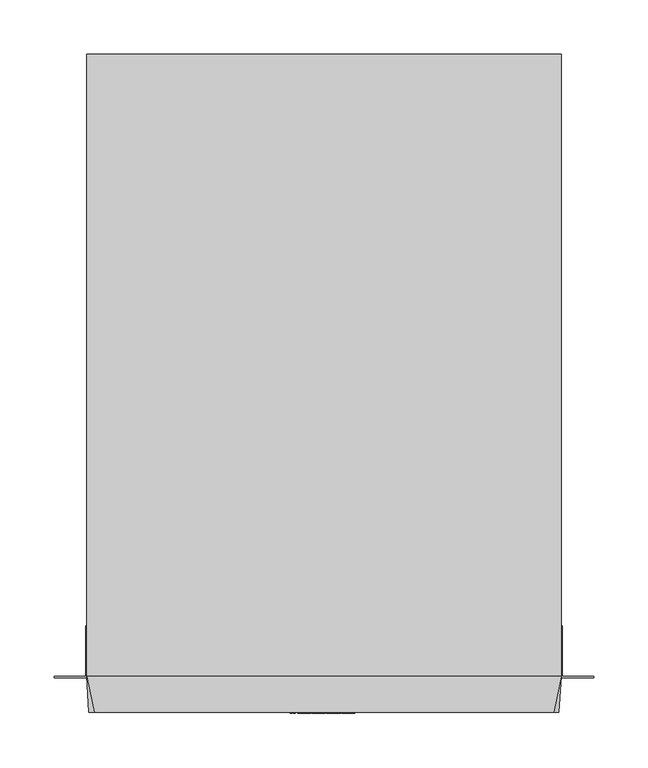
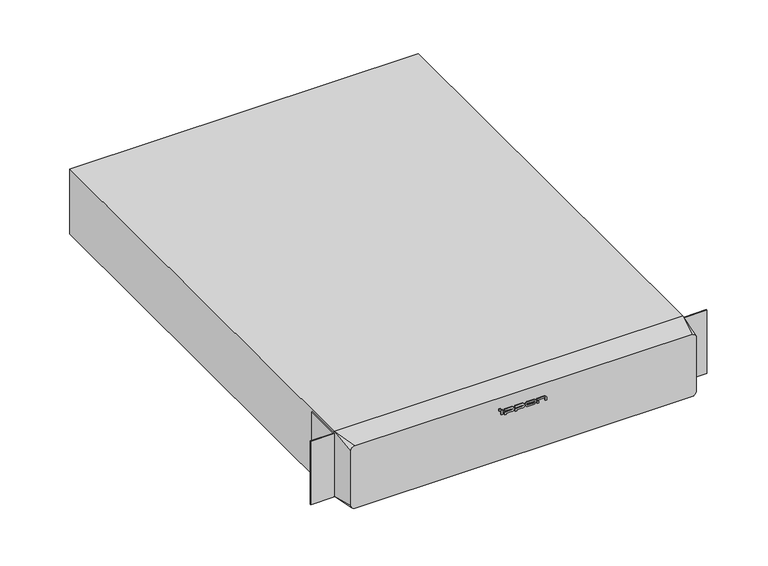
"""IFC4 building model written with IfcOpenShell, lengths in millimetres: proxy geometry, IPPON_EBM_Smart Winner II_1500_2000_2000E_3000ВА : EBM Smart Winner II 2000/3000 ВА."""

from ifc_helpers import new_model, si_unit, point, frame, frame_2d, origin, place, context, project, spatial, polyline, circle_curve, trimmed, segment, composite_curve, outline, extrude, source, transform, mapped, element, save
from ifc_brep_helpers import plane_surface, spline_surface, advanced_brep


def electrical_equipment_90de4895(model_context):
    return source(origin(), model_context, "Body", "SolidModel", [
        extrude(outline(polyline([(-29.1718133, -1.0), (-31.1718133, -1.0), (-31.1718133, 0.0), (-29.1718133, 0.0), (-29.1718133, -1.0)])), frame((0.0, 0.0, 70.0945835), z_axis=(0.0, 0.0, 1.0), x_axis=(1.0, 0.0, 0.0)), (0.0, 0.0, 1.0), 2.3),
        extrude(outline(polyline([(18.6035474, -1.0), (16.6035474, -1.0), (16.6035474, 0.0), (18.6035474, 0.0), (18.6035474, -1.0)])), frame((0.0, 0.0, 64.0945835), z_axis=(0.0, 0.0, 1.0), x_axis=(1.0, 0.0, 0.0)), (0.0, 0.0, 1.0), 2.2268231),
        extrude(outline(polyline([(-26.438565, -1.0), (-28.4833324, -1.0), (-28.4833324, 0.0), (-26.438565, 0.0), (-26.438565, -1.0)])), frame((0.0, 0.0, 64.0945835), z_axis=(0.0, 0.0, 1.0), x_axis=(1.0, 0.0, 0.0)), (0.0, 0.0, 1.0), 6.0),
        extrude(outline(composite_curve([segment(polyline([(67.8321435, -24.2241109), (67.8321435, -14.9923536)]), True, "CONTINUOUS"), segment(trimmed(circle_curve(frame_2d((66.9756642, -14.9923536)), 0.8564793), [point((67.8321435, -14.9923536))], [point((66.1191849, -14.9923536))], True, "CARTESIAN"), True, "CONTINUOUS"), segment(polyline([(66.1191849, -14.9923536), (66.1191849, -24.2241109), (62.6286803, -24.2241109), (62.6286803, -22.2241109), (64.0945835, -22.2241109), (64.0945835, -15.1486036)]), True, "CONTINUOUS"), segment(trimmed(circle_curve(frame_2d((67.0945835, -15.1486036)), 3.0), [point((64.0945835, -15.1486036))], [point((70.0945835, -15.1486036))], False, "CARTESIAN"), True, "CONTINUOUS"), segment(polyline([(70.0945835, -15.1486036), (70.0945835, -24.2241109), (67.8321435, -24.2241109)]), True, "CONTINUOUS")], self_intersect=False)), frame((0.0, -1.0, 0.0), z_axis=(0.0, 1.0, 0.0), x_axis=(0.0, 0.0, 1.0)), (0.0, 0.0, 1.0), 1.0),
        extrude(outline(composite_curve([segment(polyline([(67.8321435, -11.0171091), (67.8321435, -1.7853518)]), True, "CONTINUOUS"), segment(trimmed(circle_curve(frame_2d((66.9756642, -1.7853518)), 0.8564793), [point((67.8321435, -1.7853518))], [point((66.1191849, -1.7853518))], True, "CARTESIAN"), True, "CONTINUOUS"), segment(polyline([(66.1191849, -1.7853518), (66.1191849, -11.0171091), (62.6286803, -11.0171091), (62.6286803, -9.0171091), (64.0945835, -9.0171091), (64.0945835, -1.9416018)]), True, "CONTINUOUS"), segment(trimmed(circle_curve(frame_2d((67.0945835, -1.9416018)), 3.0), [point((64.0945835, -1.9416018))], [point((70.0945835, -1.9416018))], False, "CARTESIAN"), True, "CONTINUOUS"), segment(polyline([(70.0945835, -1.9416018), (70.0945835, -11.0171091), (67.8321435, -11.0171091)]), True, "CONTINUOUS")], self_intersect=False)), frame((0.0, -1.0, 0.0), z_axis=(0.0, 1.0, 0.0), x_axis=(0.0, 0.0, 1.0)), (0.0, 0.0, 1.0), 1.0),
        extrude(outline(composite_curve([segment(trimmed(circle_curve(frame_2d((67.0945835, 12.558657)), 3.0), [point((64.0945835, 12.558657))], [point((70.0945835, 12.558657))], False, "CARTESIAN"), True, "CONTINUOUS"), segment(polyline([(70.0945835, 12.558657), (70.0945835, 4.958657)]), True, "CONTINUOUS"), segment(trimmed(circle_curve(frame_2d((67.0945835, 4.958657)), 3.0), [point((70.0945835, 4.958657))], [point((64.0945835, 4.958657))], False, "CARTESIAN"), True, "CONTINUOUS"), segment(polyline([(64.0945835, 4.958657), (64.0945835, 12.558657)]), True, "CONTINUOUS")], self_intersect=False), holes=[composite_curve([segment(polyline([(66.1191849, 12.714907), (66.1191849, 4.802407)]), True, "CONTINUOUS"), segment(trimmed(circle_curve(frame_2d((66.9756642, 4.802407)), 0.8564793), [point((66.1191849, 4.802407))], [point((67.8321435, 4.802407))], True, "CARTESIAN"), True, "CONTINUOUS"), segment(polyline([(67.8321435, 4.802407), (67.8321435, 12.714907)]), True, "CONTINUOUS"), segment(trimmed(circle_curve(frame_2d((66.9756642, 12.714907)), 0.8564793), [point((67.8321435, 12.714907))], [point((66.1191849, 12.714907))], True, "CARTESIAN"), True, "CONTINUOUS")], self_intersect=False)]), frame((0.0, -1.0, 0.0), z_axis=(0.0, 1.0, 0.0), x_axis=(0.0, 0.0, 1.0)), (0.0, 0.0, 1.0), 1.0),
        extrude(outline(composite_curve([segment(polyline([(67.8321435, 16.6035474), (67.8321435, 25.8353046)]), True, "CONTINUOUS"), segment(trimmed(circle_curve(frame_2d((66.9756642, 25.8353046)), 0.8564793), [point((67.8321435, 25.8353046))], [point((66.9756642, 26.6917839))], True, "CARTESIAN"), True, "CONTINUOUS"), segment(polyline([(66.9756642, 26.6917839), (64.0945835, 26.6917839), (64.0945835, 28.6317921), (67.625, 28.6317921)]), True, "CONTINUOUS"), segment(trimmed(circle_curve(frame_2d((67.0945835, 25.6790546)), 3.0), [point((67.625, 28.6317921))], [point((70.0945835, 25.6790546))], False, "CARTESIAN"), True, "CONTINUOUS"), segment(polyline([(70.0945835, 25.6790546), (70.0945835, 16.6035474), (67.8321435, 16.6035474)]), True, "CONTINUOUS")], self_intersect=False)), frame((0.0, -1.0, 0.0), z_axis=(0.0, 1.0, 0.0), x_axis=(0.0, 0.0, 1.0)), (0.0, 0.0, 1.0), 1.0),
        extrude(outline(polyline([(219.0, 32.0), (219.0, 80.0), (220.0, 80.0), (220.0, 33.0), (249.0, 33.0), (249.0, 32.0), (219.0, 32.0)])), frame((0.0, 0.0, 2.0), z_axis=(0.0, 0.0, 1.0), x_axis=(1.0, 0.0, 0.0)), (0.0, 0.0, 1.0), 84.5),
        extrude(outline(polyline([(-219.0, 32.0), (-249.0, 32.0), (-249.0, 33.0), (-220.0, 33.0), (-220.0, 80.0), (-219.0, 80.0), (-219.0, 32.0)])), frame((0.0, 0.0, 2.0), z_axis=(0.0, 0.0, 1.0), x_axis=(1.0, 0.0, 0.0)), (0.0, 0.0, 1.0), 84.5),
        advanced_brep(
        [(212.0, 0.0, 4.0), (217.0, 0.0, 9.0), (217.0, 0.0, 81.5), (212.0, 0.0, 86.5), (-212.0, 0.0, 86.5), (-217.0, 0.0, 81.5), (-217.0, 0.0, 9.0), (-212.0, 0.0, 4.0), (219.0, 33.0, 2.0), (-219.0, 33.0, 2.0), (-219.0, 33.0, 88.5), (219.0, 33.0, 88.5)],
        [
            (0, 1, circle_curve(frame((212.0, 0.0, 9.0), z_axis=(0.0, -1.0, 0.0), x_axis=(-1.0, 0.0, 0.0)), 5.0)),
            (1, 2),
            (2, 3, circle_curve(frame((212.0, 0.0, 81.5), z_axis=(0.0, -1.0, 0.0), x_axis=(-1.0, 0.0, 0.0)), 5.0)),
            (3, 4),
            (4, 5, circle_curve(frame((-212.0, 0.0, 81.5), z_axis=(0.0, -1.0, 0.0), x_axis=(-1.0, 0.0, 0.0)), 5.0)),
            (5, 6),
            (6, 7, circle_curve(frame((-212.0, 0.0, 9.0), z_axis=(0.0, -1.0, 0.0), x_axis=(-1.0, 0.0, 0.0)), 5.0)),
            (7, 0),
            (8, 9),
            (9, 10),
            (10, 11),
            (11, 8),
            (0, 8),
            (8, 1),
            (7, 9),
            (6, 9),
            (5, 10),
            (4, 10),
            (3, 11),
            (2, 11),
        ],
        [
            plane_surface(frame((0.0, 0.0, 45.25), z_axis=(0.0, -1.0, 0.0), x_axis=(1.0, 0.0, 0.0))),
            plane_surface(frame((0.0, 33.0, 45.25), z_axis=(0.0, 1.0, 0.0), x_axis=(1.0, 0.0, 0.0))),
            spline_surface(2, 1, [[(219.0, 33.0, 2.0), (212.0, 0.0, 4.0)], [(219.0, 33.0, 2.0), (217.0, 0.0, 4.0)], [(219.0, 33.0, 2.0), (217.0, 0.0, 9.0)]], [3, 3], [2, 2], [0.0, 1.0], [0.0, 1.0], weights=[[1.0, 1.0], [0.7071067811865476, 0.7071067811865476], [1.0, 1.0]]),
            plane_surface(frame((0.0, 33.0, 2.0), z_axis=(0.0, -0.060495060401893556, -0.9981684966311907), x_axis=(1.0, 0.0, 0.0))),
            spline_surface(2, 1, [[(-219.0, 33.0, 2.0), (-217.0, 0.0, 9.0)], [(-219.0, 33.0, 2.0), (-217.0, 0.0, 4.0)], [(-219.0, 33.0, 2.0), (-212.0, 0.0, 4.0)]], [3, 3], [2, 2], [0.0, 1.0], [0.0, 1.0], weights=[[1.0, 1.0], [0.7071067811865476, 0.7071067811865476], [1.0, 1.0]]),
            plane_surface(frame((-219.0, 33.0, 45.25), z_axis=(-0.9981684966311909, -0.06049506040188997, 0.0), x_axis=(0.0, 0.0, -1.0))),
            spline_surface(2, 1, [[(-219.0, 33.0, 88.5), (-212.0, 0.0, 86.5)], [(-219.0, 33.0, 88.5), (-217.0, 0.0, 86.5)], [(-219.0, 33.0, 88.5), (-217.0, 0.0, 81.5)]], [3, 3], [2, 2], [0.0, 1.0], [0.0, 1.0], weights=[[1.0, 1.0], [0.7071067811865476, 0.7071067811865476], [1.0, 1.0]]),
            plane_surface(frame((0.0, 33.0, 88.5), z_axis=(0.0, -0.060495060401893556, 0.9981684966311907), x_axis=(-1.0, 0.0, 0.0))),
            spline_surface(2, 1, [[(219.0, 33.0, 88.5), (217.0, 0.0, 81.5)], [(219.0, 33.0, 88.5), (217.0, 0.0, 86.5)], [(219.0, 33.0, 88.5), (212.0, 0.0, 86.5)]], [3, 3], [2, 2], [0.0, 1.0], [0.0, 1.0], weights=[[1.0, 1.0], [0.7071067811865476, 0.7071067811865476], [1.0, 1.0]]),
            plane_surface(frame((219.0, 33.0, 45.25), z_axis=(0.9981684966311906, -0.06049506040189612, 0.0), x_axis=(0.0, 0.0, 1.0))),
        ],
        [
            (0, [[1, 2, 3, 4, 5, 6, 7, 8]]),
            (1, [[9, 10, 11, 12]]),
            (2, [[-1, 13, 14]]),
            (3, [[-9, -13, -8, 15]]),
            (4, [[-7, 16, -15]]),
            (5, [[-10, -16, -6, 17]]),
            (6, [[-5, 18, -17]]),
            (7, [[-11, -18, -4, 19]]),
            (8, [[-3, 20, -19]]),
            (9, [[-12, -20, -2, -14]]),
        ],
    ),
        extrude(outline(polyline([(219.0, 33.0), (-219.0, 33.0), (-219.0, 608.0), (219.0, 608.0), (219.0, 33.0)])), frame((0.0, 0.0, 2.0), z_axis=(0.0, 0.0, 1.0), x_axis=(1.0, 0.0, 0.0)), (0.0, 0.0, 1.0), 86.5),
    ])


if __name__ == "__main__":
    model = new_model("IFC4")
    model_context = context("Model", 3, world=origin())
    ifc_project = project(units=[si_unit("LENGTHUNIT", "METRE", prefix="MILLI")], contexts=[model_context])
    site = spatial("IfcSite", under=ifc_project)
    building = spatial("IfcBuilding", under=site)
    placement = place(None, origin())
    electrical_equipment_shape = electrical_equipment_90de4895(model_context)
    element("IfcBuildingElementProxy", 1, Name="IPPON_EBM_Smart Winner II_1500_2000_2000E_3000ВА : EBM Smart Winner II 2000/3000 ВА", ObjectType="IPPON_EBM_Smart Winner II_1500_2000_2000E_3000ВА : EBM Smart Winner II 2000/3000 ВА", at=placement, inside=building, context=model_context, shape_type="MappedRepresentation", body=[
        mapped(electrical_equipment_shape, transform((0.0, 0.0, 0.0), x_axis=(1.0, 0.0, 0.0), y_axis=(0.0, 1.0, 0.0), z_axis=(0.0, 0.0, 1.0))),
    ])
    save(model, "model.ifc")
